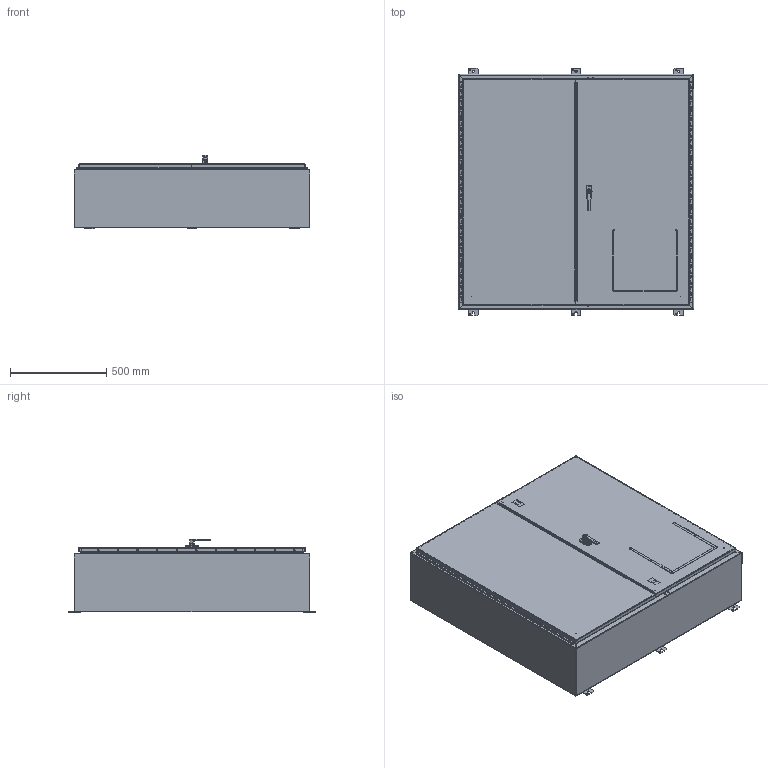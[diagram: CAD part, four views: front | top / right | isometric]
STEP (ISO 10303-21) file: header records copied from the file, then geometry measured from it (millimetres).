
FILE_DESCRIPTION (( 'STEP AP203' ), '1' );
FILE_NAME ('27650.step', '2013-08-07T04:30:55', ( '' ), ( '' ), 'SwSTEP 2.0', 'SolidWorks 2010', '' );
FILE_SCHEMA (( 'CONFIG_CONTROL_DESIGN' ));
Products named in the file (29): 27650; 89053316_DOOR CLOSED; 26311050; 22285033_default; 22118708_22118701; 22118308; 26302013; 26302113; 27301001; 26301013; 26301113; 22118008; 99411210_Config-Drawing; 22110001; 22112001_AFTER WELD; 23418001; 99416775_Flexible with Wire Tie; 22108006; 26123007_26123007 ; 27115004; 99401452; 26274012_26274012; 26273012_26273012; 30101003; 27115001; 22318002; 31121101_Flexible Close; 26384002; 26120009
Assembly tree (52 placements, depth 4):
  27650
    89053316_DOOR CLOSED
      22118308  x2
      22112001_AFTER WELD  x8
      26311050
      26301013
        26301113
        99411210_Config-Drawing
        22118008
      22110001  x6
      22285033_default  x4
      22118708_22118701  x2
      26302013
        26302113
        22118008
        99411210_Config-Drawing
        27301001  x2
    31121101_Flexible Close
      26120009
      26384002
    26274012_26274012  x2
      26273012_26273012
      30101003
      22318002
      27115001
    99416775_Flexible with Wire Tie
      26123007_26123007 
      27115004  x2
      99401452  x2
      22108006
    23418001
Bounding box: 1219.2 x 1282.7 x 382.41 mm (x, y, z)
Volume: 11552217.9 mm3; surface area: 10324645.8 mm2
Topology: 51 solids, 51 shells, 5771 faces, 15561 edges, 10156 vertices
Faces by surface type: plane 2570, bspline 2050, cylinder 911, torus 194, cone 32, sphere 14
Entity records: 147931 total; most frequent: CARTESIAN_POINT 70484, ORIENTED_EDGE 17226, DIRECTION 11791, EDGE_CURVE 8613, VERTEX_POINT 5625, VECTOR 5305, LINE 5305, EDGE_LOOP 3436
